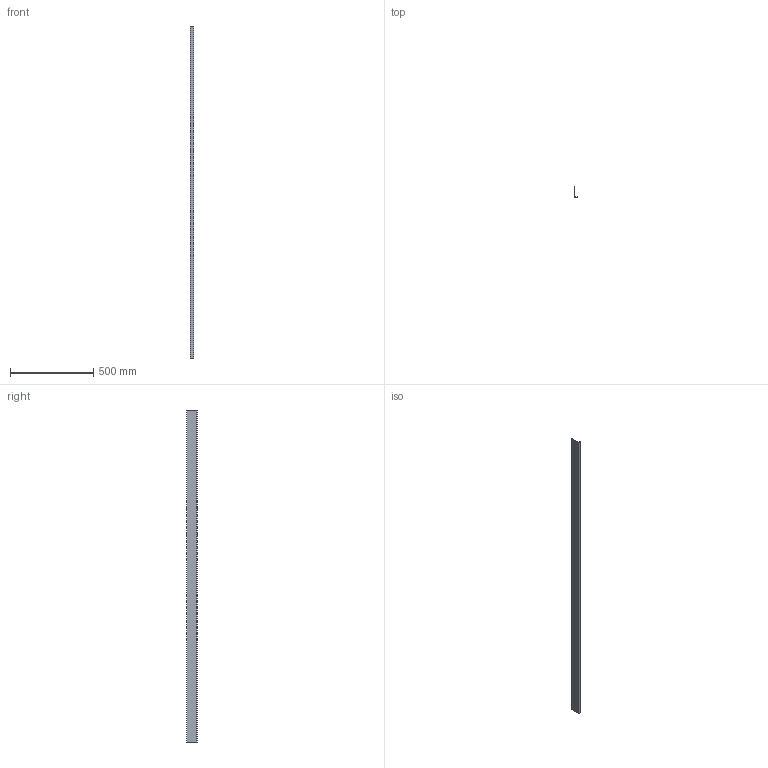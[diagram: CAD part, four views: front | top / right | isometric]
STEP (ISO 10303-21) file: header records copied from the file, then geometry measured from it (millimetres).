
FILE_DESCRIPTION (( 'STEP AP203' ), '1' );
FILE_NAME ('M14C.STEP', '2018-06-19T14:09:43', ( 'Michael Moliner' ), ( '' ), 'SwSTEP 2.0', 'SolidWorks 2018', '' );
FILE_SCHEMA (( 'CONFIG_CONTROL_DESIGN' ));
Length unit declared in the file: inch
Products named in the file (2): M14C
Bounding box: 19.56 x 65.02 x 2000 mm (x, y, z)
Volume: 103784.1 mm3; surface area: 410734.6 mm2
Topology: 1 solids, 1 shells, 14 faces, 36 edges, 24 vertices
Faces by surface type: plane 10, cylinder 4
Entity records: 585 total; most frequent: DIRECTION 76, CARTESIAN_POINT 76, ORIENTED_EDGE 72, EDGE_CURVE 36, LINE 28, VECTOR 28, VERTEX_POINT 24, AXIS2_PLACEMENT_3D 24
